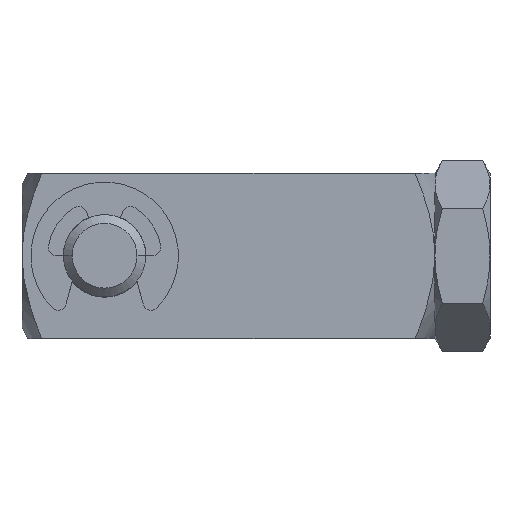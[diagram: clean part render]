
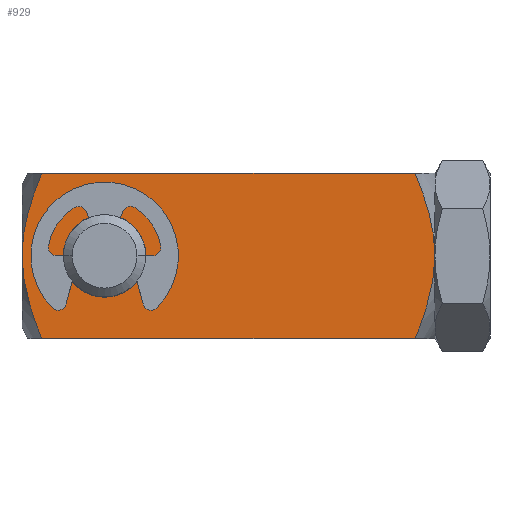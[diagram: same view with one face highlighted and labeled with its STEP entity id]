
A CAD part, top view. The second image highlights one B-rep face of the part: STEP entity #929.
In plain terms, the highlighted planar face has unit normal (0, 0, 1).
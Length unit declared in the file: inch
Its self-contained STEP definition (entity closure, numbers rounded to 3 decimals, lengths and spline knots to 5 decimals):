
#140=CARTESIAN_POINT('',(-0.89266,-0.1875,0.1875));
#150=DIRECTION('',(1.,0.,0.));
#151=VECTOR('',#150,0.84782);
#152=CARTESIAN_POINT('',(-0.89266,-0.1875,0.1875));
#153=LINE('',#152,#151);
#157=CARTESIAN_POINT('',(-0.04484,-0.1875,0.1875));
#223=CARTESIAN_POINT('',(-0.89266,0.1875,0.1875));
#224=CARTESIAN_POINT('',(-0.89733,0.17605,0.1875));
#225=CARTESIAN_POINT('',(-0.90582,0.15421,0.1875));
#226=CARTESIAN_POINT('',(-0.91587,0.12502,0.1875));
#227=CARTESIAN_POINT('',(-0.92376,0.09832,0.1875));
#228=CARTESIAN_POINT('',(-0.92982,0.07312,0.1875));
#229=CARTESIAN_POINT('',(-0.9342,0.0486,0.1875));
#230=CARTESIAN_POINT('',(-0.93689,0.0243,0.1875));
#231=CARTESIAN_POINT('',(-0.9375,0.00809,0.1875));
#232=CARTESIAN_POINT('',(-0.9375,0.,0.1875));
#237=CARTESIAN_POINT('',(-0.04484,0.1875,0.1875));
#238=CARTESIAN_POINT('',(-0.04017,0.17605,0.1875));
#239=CARTESIAN_POINT('',(-0.03168,0.15421,0.1875));
#240=CARTESIAN_POINT('',(-0.02163,0.12502,0.1875));
#241=CARTESIAN_POINT('',(-0.01374,0.09832,0.1875));
#242=CARTESIAN_POINT('',(-0.00768,0.07312,0.1875));
#243=CARTESIAN_POINT('',(-0.0033,0.0486,0.1875));
#244=CARTESIAN_POINT('',(-0.00061,0.0243,0.1875));
#245=CARTESIAN_POINT('',(0.,0.00809,0.1875));
#246=CARTESIAN_POINT('',(0.,0.,0.1875));
#251=CARTESIAN_POINT('',(0.,0.,0.1875));
#252=CARTESIAN_POINT('',(0.,-0.00809,0.1875));
#253=CARTESIAN_POINT('',(-0.00061,-0.02429,0.1875));
#254=CARTESIAN_POINT('',(-0.0033,-0.04858,0.1875));
#255=CARTESIAN_POINT('',(-0.00767,-0.07306,0.1875));
#256=CARTESIAN_POINT('',(-0.01371,-0.0982,0.1875));
#257=CARTESIAN_POINT('',(-0.02155,-0.12476,0.1875));
#258=CARTESIAN_POINT('',(-0.03162,-0.15405,0.1875));
#259=CARTESIAN_POINT('',(-0.04014,-0.17599,0.1875));
#260=CARTESIAN_POINT('',(-0.04484,-0.1875,0.1875));
#265=CARTESIAN_POINT('',(-0.9375,0.,0.1875));
#266=CARTESIAN_POINT('',(-0.9375,-0.00809,0.1875));
#267=CARTESIAN_POINT('',(-0.93689,-0.02429,0.1875));
#268=CARTESIAN_POINT('',(-0.9342,-0.04858,0.1875));
#269=CARTESIAN_POINT('',(-0.92983,-0.07306,0.1875));
#270=CARTESIAN_POINT('',(-0.92379,-0.0982,0.1875));
#271=CARTESIAN_POINT('',(-0.91595,-0.12476,0.1875));
#272=CARTESIAN_POINT('',(-0.90588,-0.15405,0.1875));
#273=CARTESIAN_POINT('',(-0.89736,-0.17599,0.1875));
#274=CARTESIAN_POINT('',(-0.89266,-0.1875,0.1875));
#279=CARTESIAN_POINT('',(-0.75,0.,0.1875));
#280=DIRECTION('',(0.,0.,-1.));
#281=DIRECTION('',(-1.,0.,0.));
#282=AXIS2_PLACEMENT_3D('',#279,#280,#281);
#287=CARTESIAN_POINT('',(-0.75,0.,0.1875));
#288=DIRECTION('',(0.,0.,-1.));
#289=DIRECTION('',(1.,0.,0.));
#290=AXIS2_PLACEMENT_3D('',#287,#288,#289);
#335=CARTESIAN_POINT('',(-0.04484,0.1875,0.1875));
#340=DIRECTION('',(1.,0.,0.));
#341=VECTOR('',#340,0.84782);
#342=CARTESIAN_POINT('',(-0.89266,0.1875,0.1875));
#343=LINE('',#342,#341);
#352=CARTESIAN_POINT('',(-0.89266,0.1875,0.1875));
#720=VERTEX_POINT('',#140);
#724=VERTEX_POINT('',#157);
#730=VERTEX_POINT('',#352);
#733=VERTEX_POINT('',#335);
#741=CARTESIAN_POINT('',(-0.9375,0.,0.1875));
#742=VERTEX_POINT('',#741);
#743=VERTEX_POINT('',#246);
#756=CARTESIAN_POINT('',(-0.844,0.,0.1875));
#757=CARTESIAN_POINT('',(-0.656,0.,0.1875));
#758=VERTEX_POINT('',#756);
#759=VERTEX_POINT('',#757);
#907=CARTESIAN_POINT('',(-0.9375,-0.1875,0.1875));
#908=DIRECTION('',(0.,0.,1.));
#909=DIRECTION('',(1.,0.,0.));
#910=AXIS2_PLACEMENT_3D('',#907,#908,#909);
#911=PLANE('',#910);
#912=ORIENTED_EDGE('',*,*,#861,.F.);
#914=ORIENTED_EDGE('',*,*,#913,.T.);
#916=ORIENTED_EDGE('',*,*,#915,.T.);
#918=ORIENTED_EDGE('',*,*,#917,.T.);
#919=ORIENTED_EDGE('',*,*,#891,.F.);
#920=ORIENTED_EDGE('',*,*,#834,.F.);
#921=EDGE_LOOP('',(#912,#914,#916,#918,#919,#920));
#922=FACE_OUTER_BOUND('',#921,.F.);
#924=ORIENTED_EDGE('',*,*,#923,.F.);
#926=ORIENTED_EDGE('',*,*,#925,.F.);
#927=EDGE_LOOP('',(#924,#926));
#928=FACE_BOUND('',#927,.F.);
#233=B_SPLINE_CURVE_WITH_KNOTS('',3,(#223,#224,#225,#226,#227,#228,#229,#230,
#231,#232),.UNSPECIFIED.,.F.,.F.,(4,1,1,1,1,1,1,4),(0.,0.14286,
0.28571,0.42857,0.57143,0.71429,
0.85714,1.),.UNSPECIFIED.);
#247=B_SPLINE_CURVE_WITH_KNOTS('',3,(#237,#238,#239,#240,#241,#242,#243,#244,
#245,#246),.UNSPECIFIED.,.F.,.F.,(4,1,1,1,1,1,1,4),(0.,0.14286,
0.28571,0.42857,0.57143,0.71429,
0.85714,1.),.UNSPECIFIED.);
#261=B_SPLINE_CURVE_WITH_KNOTS('',3,(#251,#252,#253,#254,#255,#256,#257,#258,
#259,#260),.UNSPECIFIED.,.F.,.F.,(4,1,1,1,1,1,1,4),(0.,0.14286,
0.28571,0.42857,0.57143,0.71429,
0.85714,1.),.UNSPECIFIED.);
#275=B_SPLINE_CURVE_WITH_KNOTS('',3,(#265,#266,#267,#268,#269,#270,#271,#272,
#273,#274),.UNSPECIFIED.,.F.,.F.,(4,1,1,1,1,1,1,4),(0.,0.14286,
0.28571,0.42857,0.57143,0.71429,
0.85714,1.),.UNSPECIFIED.);
#283=CIRCLE('',#282,0.094);
#291=CIRCLE('',#290,0.094);
#834=EDGE_CURVE('',#742,#720,#275,.T.);
#861=EDGE_CURVE('',#730,#742,#233,.T.);
#891=EDGE_CURVE('',#720,#724,#153,.T.);
#913=EDGE_CURVE('',#730,#733,#343,.T.);
#915=EDGE_CURVE('',#733,#743,#247,.T.);
#917=EDGE_CURVE('',#743,#724,#261,.T.);
#923=EDGE_CURVE('',#758,#759,#283,.T.);
#925=EDGE_CURVE('',#759,#758,#291,.T.);
#929=ADVANCED_FACE('',(#922,#928),#911,.T.);
